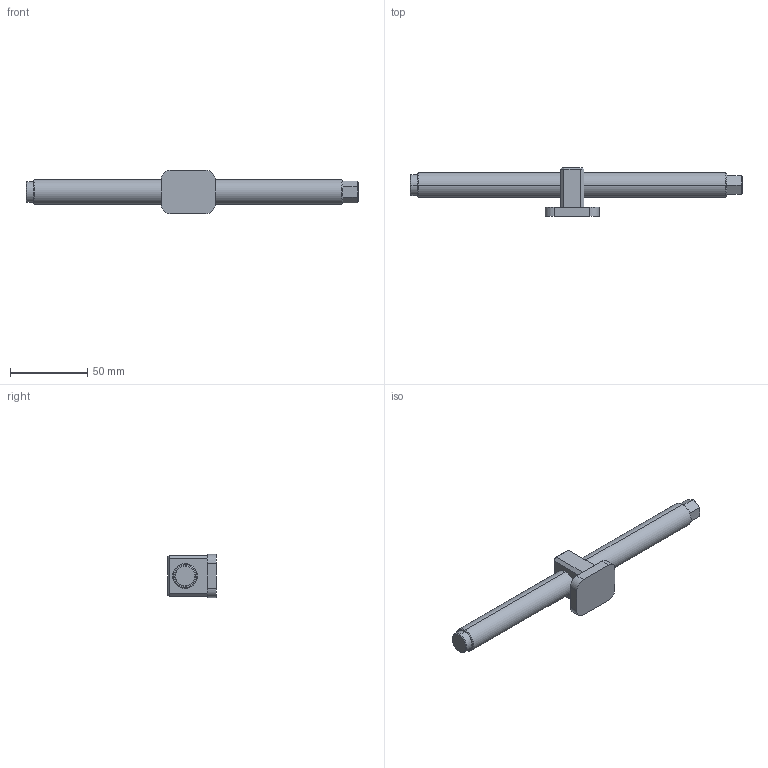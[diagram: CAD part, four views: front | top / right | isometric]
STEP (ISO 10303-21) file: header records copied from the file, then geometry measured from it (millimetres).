
FILE_DESCRIPTION (( 'STEP AP214' ), '1' );
FILE_NAME ('4877215.STEP', '2025-03-20T12:03:36', ( '' ), ( '' ), 'SwSTEP 2.0', 'SolidWorks 2021', '' );
FILE_SCHEMA (( 'AUTOMOTIVE_DESIGN' ));
Length unit declared in the file: millimetre
Products named in the file (1): 4877215
Bounding box: 215 x 31.65 x 28 mm (x, y, z)
Volume: 54757 mm3; surface area: 14618.9 mm2
Topology: 1 solids, 1 shells, 68 faces, 154 edges, 94 vertices
Faces by surface type: plane 52, cylinder 10, cone 6
Entity records: 2341 total; most frequent: DIRECTION 318, CARTESIAN_POINT 317, ORIENTED_EDGE 308, EDGE_CURVE 154, LINE 128, VECTOR 128, AXIS2_PLACEMENT_3D 95, VERTEX_POINT 94
